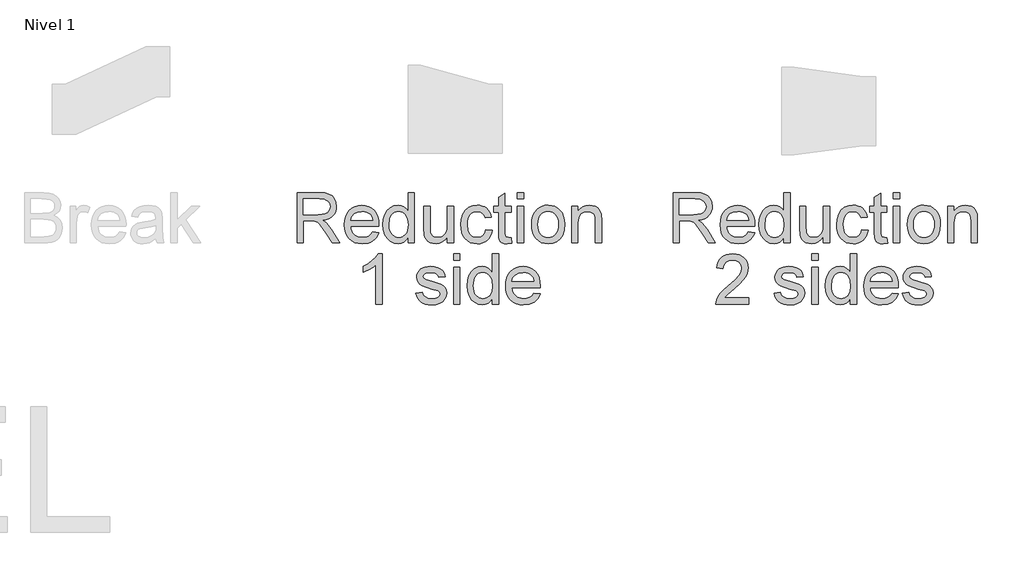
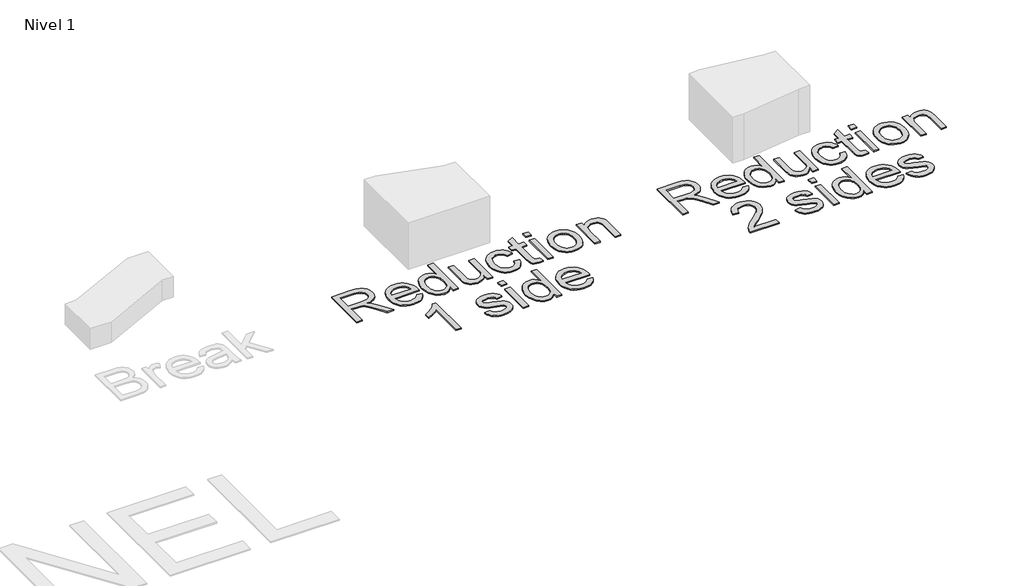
# One storey, part 6 of 7: 2 proxies.
"""IFC4 building model written with IfcOpenShell, lengths in millimetres."""

from ifc_helpers import new_model, si_unit, origin, origin_with_axes, place, context, project, spatial, polyline, outline, extrude, element, save

model = new_model("IFC4")

# Units and contexts
model_context = context("Model", 3, world=origin())
ifc_project = project(units=[si_unit("LENGTHUNIT", "METRE", prefix="MILLI")], contexts=[model_context])

# Site, building, storey
site = spatial("IfcSite", under=ifc_project)
building = spatial("IfcBuilding", under=site)
storey = spatial("IfcBuildingStorey", under=building, Name="Nivel 1", Elevation=0.0)

# Proxies
placement = place(None, origin())
element("IfcBuildingElementProxy", 1, Name="Texto de modelo 1", ObjectType="Texto de modelo 1", at=placement, inside=storey, context=model_context, shape_type="SweptSolid", body=[
    extrude(outline(polyline([(4236.6216122, -4316.3248037), (4236.6216122, -3914.4995631), (4409.7714046, -3914.4995631), (4456.308477, -3917.2096271), (4490.1658833, -3925.3398192), (4514.9120788, -3940.3494046), (4534.115519, -3963.6976486), (4546.4395658, -3992.6499616), (4550.5475814, -4024.4717542), (4548.8461272, -4045.1099341), (4543.7417645, -4064.0558569), (4535.2344934, -4081.3095224), (4523.3243138, -4096.8709308), (4507.8579416, -4110.2434414), (4488.6820926, -4120.9304133), (4465.7967668, -4128.9318467), (4439.2019642, -4134.2477415), (4467.749607, -4155.7320501), (4508.4618812, -4207.4317331), (4575.4654552, -4316.3248037), (4517.0948453, -4316.3248037), (4464.8065511, -4233.03632), (4427.0373329, -4177.9030716), (4412.9965034, -4161.8266285), (4400.5007783, -4151.8570264), (4376.6129741, -4142.2920945), (4347.4767201, -4140.5262609), (4286.8497673, -4140.5262609), (4286.8497673, -4316.3248037), (4236.6216122, -4316.3248037)]), holes=[polyline([(4286.8497673, -4090.2981059), (4399.274505, -4090.2981059), (4431.5622814, -4088.5200095), (4456.6150453, -4083.1857206), (4475.4751289, -4073.9396198), (4489.1848646, -4060.4260878), (4497.5357859, -4044.0798645), (4500.3194263, -4026.3356896), (4495.0096629, -4001.8347488), (4479.0803725, -3982.0917483), (4466.9188069, -3974.4949851), (4451.6731638, -3969.0687257), (4411.9296456, -3964.7277182), (4286.8497673, -3964.7277182), (4286.8497673, -4090.2981059)])]), origin_with_axes(), (0.0, 0.0, 1.0), 10.0),
    extrude(outline(polyline([(4838.7708619, -4228.4255323), (4888.0179983, -4234.7040517), (4880.4672204, -4254.428658), (4870.2738234, -4271.8110823), (4857.4378075, -4286.8513245), (4841.9591725, -4299.5493847), (4823.9973341, -4309.6354827), (4803.7117078, -4316.8398385), (4756.1690912, -4322.6033231), (4725.0033549, -4320.1170539), (4697.2343956, -4312.6582465), (4672.8622134, -4300.2269007), (4651.8868083, -4282.8230167), (4635.0194189, -4260.9309723), (4622.9712835, -4235.0351455), (4615.7424023, -4205.1355363), (4613.3327753, -4171.2321448), (4615.7669278, -4136.179122), (4623.0693854, -4105.2831658), (4635.2401481, -4078.5442761), (4652.2792158, -4055.962453), (4673.1994386, -4038.0220743), (4697.0136664, -4025.2075182), (4723.7218993, -4017.5187845), (4753.3241371, -4014.9558732), (4781.9729475, -4017.5126531), (4807.881037, -4025.1829927), (4831.0484057, -4037.966892), (4851.4750535, -4055.8643511), (4868.1493049, -4078.3971233), (4880.0594845, -4105.0869621), (4887.2055922, -4135.9338674), (4889.5876282, -4170.9378392), (4889.2933226, -4184.4758966), (4663.5609303, -4184.4758966), (4666.4702638, -4204.519334), (4672.2552081, -4222.0734365), (4680.9157634, -4237.1382042), (4692.4519297, -4249.7136371), (4706.2260447, -4259.6280569), (4721.6004464, -4266.7097853), (4757.1501099, -4272.375168), (4783.8828682, -4269.7509431), (4806.3972463, -4261.8782684), (4824.6932442, -4248.2666346), (4838.7708619, -4228.4255323)]), holes=[polyline([(4663.5609303, -4134.2477415), (4839.3594731, -4134.2477415), (4832.5659189, -4107.711187), (4819.2485907, -4088.728476), (4805.5511177, -4078.4277801), (4789.9651839, -4071.0701402), (4772.4907891, -4066.6555563), (4753.1279334, -4065.1840283), (4719.2705271, -4069.8806551), (4691.2747073, -4083.9705355), (4671.8137498, -4105.9330907), (4663.5609303, -4134.2477415)])]), origin_with_axes(), (0.0, 0.0, 1.0), 10.0),
    extrude(outline(polyline([(5121.8928454, -4316.3248037), (5121.8928454, -4268.9416027), (5106.8648659, -4292.4186054), (5088.6608385, -4309.187893), (5067.2807632, -4319.2494656), (5042.72464, -4322.6033231), (5010.2529226, -4317.7472807), (4980.5280574, -4303.1791537), (4955.3649289, -4279.9167489), (4936.5784217, -4248.9778731), (4924.8797742, -4211.6133251), (4920.9802251, -4169.0739038), (4924.5732059, -4127.0617799), (4935.3521484, -4089.1208835), (4953.3047897, -4057.4094555), (4978.4188673, -4034.085737), (5008.7936573, -4019.7383392), (5042.5284363, -4014.9558732), (5067.1029536, -4018.3771758), (5088.8325168, -4028.6410835), (5107.251142, -4044.3741701), (5121.8928454, -4064.2030097), (5121.8928454, -3914.4995631), (5172.1210005, -3914.4995631), (5172.1210005, -4316.3248037), (5121.8928454, -4316.3248037)]), holes=[polyline([(4971.2083802, -4168.8777), (4972.6247258, -4193.2345538), (4976.8737629, -4214.3111264), (4983.9554913, -4232.1074179), (4993.8699111, -4246.6234283), (5018.5670557, -4265.9372331), (5032.4423383, -4270.7656843), (5047.3354277, -4272.375168), (5062.2990278, -4270.8392607), (5076.091537, -4266.2315387), (5100.1632822, -4247.8006507), (5109.6699661, -4233.8916456), (5116.4604546, -4216.7391476), (5121.8928454, -4172.7036728), (5116.3623527, -4124.5601823), (5109.4492369, -4106.0250612), (5099.7708747, -4091.1810226), (5088.0691616, -4079.8073376), (5075.0859929, -4071.6832769), (5060.8213685, -4066.8088405), (5045.2752885, -4065.1840283), (5030.0878935, -4066.7444611), (5016.2126109, -4071.4257595), (5003.6494408, -4079.2279235), (4992.3983831, -4090.1509531), (4983.1277568, -4104.4339715), (4976.5058809, -4122.3161022), (4971.2083802, -4168.8777)])]), origin_with_axes(), (0.0, 0.0, 1.0), 10.0),
    extrude(outline(polyline([(5435.8188146, -4316.3248037), (5435.8188146, -4265.6061393), (5417.645444, -4290.5424072), (5396.4799666, -4308.3540271), (5372.3223822, -4319.0409991), (5345.172691, -4322.6033231), (5320.7085383, -4320.1017255), (5297.9366428, -4312.5969328), (5278.8313045, -4301.3152183), (5265.3668235, -4287.4828553), (5256.3046637, -4270.6829108), (5250.406289, -4250.498452), (5247.4632331, -4203.8019641), (5247.4632331, -4021.2343926), (5297.6913881, -4021.2343926), (5297.6913881, -4180.1594145), (5300.732546, -4231.3685883), (5308.0533977, -4248.4505756), (5320.5981737, -4261.43681), (5337.5330082, -4269.6405785), (5358.0240354, -4272.375168), (5379.6922849, -4269.5792648), (5399.9625828, -4261.1915554), (5416.6766881, -4247.9845917), (5427.6763598, -4230.7309262), (5433.7832009, -4207.1006393), (5435.8188146, -4174.763812), (5435.8188146, -4021.2343926), (5486.0469697, -4021.2343926), (5486.0469697, -4316.3248037), (5435.8188146, -4316.3248037)])), origin_with_axes(), (0.0, 0.0, 1.0), 10.0),
    extrude(outline(polyline([(5743.4662644, -4209.5899742), (5793.6944195, -4215.8684935), (5788.2313719, -4239.5692911), (5779.6903782, -4260.5416305), (5768.0714385, -4278.7855118), (5753.3745528, -4294.3009349), (5736.2189891, -4306.6832297), (5717.2240154, -4315.527726), (5696.3896318, -4320.8344238), (5673.7158381, -4322.6033231), (5645.5452744, -4320.135448), (5620.2871097, -4312.7318229), (5597.9413442, -4300.3924476), (5578.5079778, -4283.1173223), (5562.7779568, -4261.2314092), (5551.5422276, -4235.059671), (5544.80079, -4204.6021074), (5542.5536441, -4169.8587187), (5546.3918796, -4125.1610563), (5557.9065861, -4086.4230822), (5577.2817045, -4055.1408499), (5604.7011759, -4032.8104127), (5637.5039871, -4019.4195081), (5673.0291251, -4014.9558732), (5695.3135769, -4016.4887149), (5715.4704446, -4021.0872398), (5733.499728, -4028.7514481), (5749.4014273, -4039.4813396), (5762.9057622, -4053.0316597), (5773.7429526, -4069.1571539), (5781.9129986, -4087.857822), (5787.4159001, -4109.133664), (5737.1877451, -4115.4121834), (5728.0765343, -4093.4986792), (5713.888552, -4077.790118), (5695.4086131, -4068.3355507), (5673.4215326, -4065.1840283), (5656.3548737, -4066.7352641), (5640.9620778, -4071.3889713), (5627.2431451, -4079.14515), (5615.1980754, -4090.0038003), (5605.3909546, -4104.216308), (5598.3858683, -4122.0340593), (5594.1828165, -4143.4570542), (5592.7817992, -4168.4852926), (5598.2632409, -4215.5619252), (5605.1150431, -4233.4992382), (5614.7075661, -4247.7025489), (5626.5135125, -4258.4968197), (5640.0055847, -4266.2070132), (5655.1837826, -4270.8331293), (5672.0481064, -4272.375168), (5698.0573635, -4268.5246698), (5719.3822565, -4256.9731751), (5734.8946139, -4237.4263785), (5743.4662644, -4209.5899742)])), origin_with_axes(), (0.0, 0.0, 1.0), 10.0),
    extrude(outline(polyline([(5944.3788847, -4274.4353072), (5950.6574041, -4317.7963317), (5913.0843897, -4322.6033231), (5888.9758563, -4320.5186584), (5870.9986894, -4314.2646645), (5858.2944979, -4304.6261562), (5850.0048902, -4292.3879485), (5845.4431535, -4271.3696239), (5843.9225746, -4235.3907648), (5843.9225746, -4071.4625477), (5806.2514583, -4071.4625477), (5806.2514583, -4021.2343926), (5843.9225746, -4021.2343926), (5843.9225746, -3949.521929), (5894.1507297, -3919.9932676), (5894.1507297, -4021.2343926), (5944.3788847, -4021.2343926), (5944.3788847, -4071.4625477), (5894.1507297, -4071.4625477), (5894.1507297, -4233.9192368), (5896.79948, -4259.8181292), (5905.3833932, -4268.9906536), (5922.5021688, -4272.375168), (5944.3788847, -4274.4353072)])), origin_with_axes(), (0.0, 0.0, 1.0), 10.0),
    extrude(outline(polyline([(5994.6070398, -3964.7277182), (5994.6070398, -3914.4995631), (6044.8351949, -3914.4995631), (6044.8351949, -3964.7277182), (5994.6070398, -3964.7277182)])), origin_with_axes(), (0.0, 0.0, 1.0), 10.0),
    extrude(outline(polyline([(5994.6070398, -4316.3248037), (5994.6070398, -4021.2343926), (6044.8351949, -4021.2343926), (6044.8351949, -4316.3248037), (5994.6070398, -4316.3248037)])), origin_with_axes(), (0.0, 0.0, 1.0), 10.0),
    extrude(outline(polyline([(6107.6203887, -4168.7795982), (6110.3365841, -4130.5627902), (6118.4851703, -4097.6312203), (6132.0661473, -4069.9848884), (6151.0795151, -4047.6237944), (6170.2216416, -4033.3315789), (6191.3503308, -4023.1228535), (6214.4655829, -4016.9976183), (6239.5673977, -4014.9558732), (6267.278109, -4017.4421424), (6292.3339385, -4024.9009498), (6314.7348863, -4037.3322956), (6334.4809524, -4054.7361797), (6350.5972495, -4076.5239908), (6362.1088903, -4102.1071179), (6369.0158747, -4131.4855609), (6371.3182029, -4164.6593198), (6367.2469755, -4215.4025097), (6355.0332932, -4254.0301192), (6335.0327754, -4282.9579067), (6307.6010413, -4304.6016308), (6275.0189593, -4318.1029), (6239.5673977, -4322.6033231), (6211.4520162, -4320.126251), (6186.1631947, -4312.6950347), (6163.7009332, -4300.3096742), (6144.0652317, -4282.9701695), (6128.1206129, -4260.9708262), (6116.7315995, -4234.6059498), (6109.8981914, -4203.8755405), (6107.6203887, -4168.7795982)]), holes=[polyline([(6157.8485438, -4168.6814963), (6159.3016777, -4193.0444814), (6163.6610793, -4214.1394482), (6170.9267487, -4231.9663965), (6181.0986859, -4246.5253265), (6193.4717837, -4257.8346321), (6207.3409349, -4265.9127076), (6222.7061396, -4270.7595529), (6239.5673977, -4272.375168), (6256.3428166, -4270.7503559), (6271.6467076, -4265.8759194), (6285.4790707, -4257.7518587), (6297.8399057, -4246.3781737), (6308.0118429, -4231.6751566), (6315.2775123, -4213.5630997), (6319.6369139, -4192.042003), (6321.0900478, -4167.1118665), (6319.6277169, -4143.5214335), (6315.2407241, -4122.9782898), (6307.9290694, -4105.4824352), (6297.6927529, -4091.0338698), (6285.2859326, -4079.7245642), (6271.4627666, -4071.6464887), (6256.223255, -4066.7996434), (6239.5673977, -4065.1840283), (6222.7061396, -4066.793512), (6207.3409349, -4071.6219632), (6193.4717837, -4079.6693819), (6181.0986859, -4090.935768), (6170.9267487, -4105.4517784), (6163.6610793, -4123.2480699), (6159.3016777, -4144.3246425), (6157.8485438, -4168.6814963)])]), origin_with_axes(), (0.0, 0.0, 1.0), 10.0),
    extrude(outline(polyline([(6427.8248773, -4316.3248037), (6427.8248773, -4021.2343926), (6478.0530324, -4021.2343926), (6478.0530324, -4062.4371761), (6495.5029017, -4041.6641061), (6516.4599127, -4026.826199), (6540.9240654, -4017.9234547), (6568.8953597, -4014.9558732), (6593.653818, -4017.3471062), (6616.3276117, -4024.5208051), (6635.2367462, -4035.5817904), (6648.7012272, -4049.6348827), (6657.8369634, -4066.6432936), (6663.7598636, -4086.570235), (6666.4086139, -4135.1306583), (6666.4086139, -4316.3248037), (6616.1804589, -4316.3248037), (6616.1804589, -4141.899687), (6614.7334563, -4115.9272182), (6610.3924488, -4097.459542), (6602.384884, -4084.2280529), (6589.9382099, -4073.9641453), (6573.984394, -4067.3790576), (6555.4554042, -4065.1840283), (6526.0371073, -4070.1136471), (6500.959818, -4084.9025033), (6490.9380993, -4096.9751641), (6483.7797288, -4113.4746716), (6479.4847065, -4134.4010257), (6478.0530324, -4159.7542265), (6478.0530324, -4316.3248037), (6427.8248773, -4316.3248037)])), origin_with_axes(), (0.0, 0.0, 1.0), 10.0),
    extrude(outline(polyline([(4914.7017057, -4804.2240751), (4864.4735506, -4804.2240751), (4864.4735506, -4491.0829208), (4843.5042769, -4508.0422808), (4816.8941459, -4524.9771153), (4764.0172405, -4550.3364475), (4764.0172405, -4502.8551446), (4803.4664531, -4481.3953616), (4837.6426904, -4455.8643511), (4864.5839152, -4428.7146599), (4882.3280901, -4402.3988345), (4914.7017057, -4402.3988345), (4914.7017057, -4804.2240751)])), origin_with_axes(), (0.0, 0.0, 1.0), 10.0),
    extrude(outline(polyline([(5184.6780392, -4716.3248037), (5234.9061943, -4710.0462843), (5242.8279199, -4731.5305928), (5258.1563364, -4747.3249932), (5280.9895456, -4757.0370778), (5311.4256493, -4760.2744394), (5341.493871, -4757.306858), (5362.634823, -4748.4041137), (5375.1428109, -4735.5037184), (5379.3121401, -4720.5431839), (5375.1182854, -4707.7408905), (5362.5367212, -4697.9797549), (5310.8370381, -4683.6568825), (5235.2004999, -4659.0823652), (5216.0583734, -4646.7337929), (5202.1892222, -4630.3875696), (5193.7647245, -4611.0860276), (5190.9565586, -4589.8714992), (5193.2129015, -4570.4105417), (5199.9819302, -4552.4456376), (5210.6505081, -4536.6880254), (5224.6054984, -4523.8489438), (5256.5376556, -4508.9865112), (5277.4210902, -4504.3879863), (5299.7515273, -4502.8551446), (5332.443974, -4505.319954), (5360.8689895, -4512.7143821), (5383.7267241, -4524.3149277), (5399.7173281, -4539.3980895), (5410.3123296, -4559.0797762), (5416.9832564, -4584.4758966), (5366.7551014, -4590.754416), (5360.4152683, -4574.9477529), (5347.8704923, -4563.040639), (5328.9981459, -4555.5726345), (5303.6756019, -4553.0832997), (5274.8336535, -4555.4622699), (5255.6056879, -4562.5991806), (5244.7899572, -4572.8998765), (5241.1847137, -4584.7702022), (5247.1689275, -4599.3873802), (5265.9063838, -4610.4728909), (5309.1693064, -4621.1659943), (5382.8928582, -4644.8085438), (5402.3660785, -4656.1147838), (5417.1304092, -4671.5903531), (5426.4378237, -4691.2843026), (5429.5402952, -4715.2456832), (5425.8982635, -4740.0164042), (5414.9721682, -4763.3155972), (5397.1789424, -4783.316115), (5372.9355189, -4798.1908104), (5343.6521121, -4807.4246484), (5310.7389362, -4810.5025945), (5283.705741, -4809.0188037), (5260.0938482, -4804.5674316), (5239.9032581, -4797.148478), (5223.1339705, -4786.761943), (5209.4364975, -4773.4568775), (5198.4613513, -4757.2823325), (5190.2085319, -4738.2383079), (5184.6780392, -4716.3248037)])), origin_with_axes(), (0.0, 0.0, 1.0), 10.0),
    extrude(outline(polyline([(5486.0469697, -4452.6269896), (5486.0469697, -4402.3988345), (5536.2751248, -4402.3988345), (5536.2751248, -4452.6269896), (5486.0469697, -4452.6269896)])), origin_with_axes(), (0.0, 0.0, 1.0), 10.0),
    extrude(outline(polyline([(5486.0469697, -4804.2240751), (5486.0469697, -4509.133664), (5536.2751248, -4509.133664), (5536.2751248, -4804.2240751), (5486.0469697, -4804.2240751)])), origin_with_axes(), (0.0, 0.0, 1.0), 10.0),
    extrude(outline(polyline([(5793.6944195, -4804.2240751), (5793.6944195, -4756.8408741), (5778.66644, -4780.3178768), (5760.4624126, -4797.0871644), (5739.0823373, -4807.1487369), (5714.5262141, -4810.5025945), (5682.0544967, -4805.6465521), (5652.3296315, -4791.0784251), (5627.166503, -4767.8160203), (5608.3799958, -4736.8771445), (5596.6813484, -4699.5125965), (5592.7817992, -4656.9731751), (5596.37478, -4614.9610513), (5607.1537225, -4577.0201549), (5625.1063639, -4545.3087269), (5650.2204414, -4521.9850084), (5680.5952315, -4507.6376106), (5714.3300104, -4502.8551446), (5738.9045277, -4506.2764472), (5760.6340909, -4516.5403548), (5779.0527161, -4532.2734415), (5793.6944195, -4552.102281), (5793.6944195, -4402.3988345), (5843.9225746, -4402.3988345), (5843.9225746, -4804.2240751), (5793.6944195, -4804.2240751)]), holes=[polyline([(5643.0099543, -4656.7769714), (5644.4263, -4681.1338252), (5648.675337, -4702.2103978), (5655.7570654, -4720.0066893), (5665.6714852, -4734.5226997), (5690.3686298, -4753.8365045), (5704.2439124, -4758.6649557), (5719.1370018, -4760.2744394), (5734.100602, -4758.7385321), (5747.8931111, -4754.1308101), (5771.9648563, -4735.6999221), (5781.4715402, -4721.790917), (5788.2620287, -4704.638419), (5793.6944195, -4660.6029442), (5788.1639268, -4612.4594537), (5781.250811, -4593.9243325), (5771.5724489, -4579.080294), (5759.8707357, -4567.706609), (5746.887567, -4559.5825483), (5732.6229426, -4554.7081118), (5717.0768626, -4553.0832997), (5701.8894676, -4554.6437325), (5688.014185, -4559.3250309), (5675.4510149, -4567.1271949), (5664.1999572, -4578.0502244), (5654.9293309, -4592.3332429), (5648.307455, -4610.2153736), (5643.0099543, -4656.7769714)])]), origin_with_axes(), (0.0, 0.0, 1.0), 10.0),
    extrude(outline(polyline([(6125.8673357, -4716.3248037), (6175.1144721, -4722.6033231), (6167.5636942, -4742.3279294), (6157.3702972, -4759.7103537), (6144.5342813, -4774.7505959), (6129.0556463, -4787.4486561), (6111.0938079, -4797.5347541), (6090.8081815, -4804.7391099), (6043.265565, -4810.5025945), (6012.0998287, -4808.0163253), (5984.3308694, -4800.5575179), (5959.9586872, -4788.1261721), (5938.9832821, -4770.722288), (5922.1158927, -4748.8302437), (5910.0677573, -4722.9344169), (5902.8388761, -4693.0348077), (5900.429249, -4659.1314162), (5902.8634016, -4624.0783934), (5910.1658592, -4593.1824372), (5922.3366219, -4566.4435475), (5939.3756896, -4543.8617244), (5960.2959124, -4525.9213457), (5984.1101402, -4513.1067896), (6010.8183731, -4505.4180559), (6040.4206109, -4502.8551446), (6069.0694213, -4505.4119245), (6094.9775108, -4513.0822641), (6118.1448795, -4525.8661634), (6138.5715273, -4543.7636225), (6155.2457787, -4566.2963947), (6167.1559583, -4592.9862334), (6174.302066, -4623.8331387), (6176.684102, -4658.8371106), (6176.3897964, -4672.375168), (5950.6574041, -4672.375168), (5953.5667376, -4692.4186054), (5959.3516819, -4709.9727079), (5968.0122372, -4725.0374756), (5979.5484035, -4737.6129085), (5993.3225185, -4747.5273283), (6008.6969202, -4754.6090567), (6044.2465837, -4760.2744394), (6070.979342, -4757.6502145), (6093.4937201, -4749.7775398), (6111.789718, -4736.165906), (6125.8673357, -4716.3248037)]), holes=[polyline([(5950.6574041, -4622.1470129), (6126.4559469, -4622.1470129), (6119.6623927, -4595.6104583), (6106.3450645, -4576.6277474), (6092.6475915, -4566.3270515), (6077.0616577, -4558.9694116), (6059.5872629, -4554.5548277), (6040.2244072, -4553.0832997), (6006.3670009, -4557.7799265), (5978.3711811, -4571.8698069), (5958.9102235, -4593.832362), (5950.6574041, -4622.1470129)])]), origin_with_axes(), (0.0, 0.0, 1.0), 10.0),
])
element("IfcBuildingElementProxy", 2, Name="Texto de modelo 1", ObjectType="Texto de modelo 1", at=placement, inside=storey, context=model_context, shape_type="SweptSolid", body=[
    extrude(outline(polyline([(7236.6216122, -4316.3248037), (7236.6216122, -3914.4995631), (7409.7714046, -3914.4995631), (7456.308477, -3917.2096271), (7490.1658833, -3925.3398192), (7514.9120788, -3940.3494046), (7534.115519, -3963.6976486), (7546.4395658, -3992.6499616), (7550.5475814, -4024.4717542), (7548.8461272, -4045.1099341), (7543.7417645, -4064.0558569), (7535.2344934, -4081.3095224), (7523.3243138, -4096.8709308), (7507.8579416, -4110.2434414), (7488.6820926, -4120.9304133), (7465.7967668, -4128.9318467), (7439.2019642, -4134.2477415), (7467.749607, -4155.7320501), (7508.4618812, -4207.4317331), (7575.4654552, -4316.3248037), (7517.0948453, -4316.3248037), (7464.8065511, -4233.03632), (7427.0373329, -4177.9030716), (7412.9965034, -4161.8266285), (7400.5007783, -4151.8570264), (7376.6129741, -4142.2920945), (7347.4767201, -4140.5262609), (7286.8497673, -4140.5262609), (7286.8497673, -4316.3248037), (7236.6216122, -4316.3248037)]), holes=[polyline([(7286.8497673, -4090.2981059), (7399.274505, -4090.2981059), (7431.5622814, -4088.5200095), (7456.6150453, -4083.1857206), (7475.4751289, -4073.9396198), (7489.1848646, -4060.4260878), (7497.5357859, -4044.0798645), (7500.3194263, -4026.3356896), (7495.0096629, -4001.8347488), (7479.0803725, -3982.0917483), (7466.9188069, -3974.4949851), (7451.6731638, -3969.0687257), (7411.9296456, -3964.7277182), (7286.8497673, -3964.7277182), (7286.8497673, -4090.2981059)])]), origin_with_axes(), (0.0, 0.0, 1.0), 10.0),
    extrude(outline(polyline([(7838.7708619, -4228.4255323), (7888.0179983, -4234.7040517), (7880.4672204, -4254.428658), (7870.2738234, -4271.8110823), (7857.4378075, -4286.8513245), (7841.9591725, -4299.5493847), (7823.9973341, -4309.6354827), (7803.7117078, -4316.8398385), (7756.1690912, -4322.6033231), (7725.0033549, -4320.1170539), (7697.2343956, -4312.6582465), (7672.8622134, -4300.2269007), (7651.8868083, -4282.8230167), (7635.0194189, -4260.9309723), (7622.9712835, -4235.0351455), (7615.7424023, -4205.1355363), (7613.3327753, -4171.2321448), (7615.7669278, -4136.179122), (7623.0693854, -4105.2831658), (7635.2401481, -4078.5442761), (7652.2792158, -4055.962453), (7673.1994386, -4038.0220743), (7697.0136664, -4025.2075182), (7723.7218993, -4017.5187845), (7753.3241371, -4014.9558732), (7781.9729475, -4017.5126531), (7807.881037, -4025.1829927), (7831.0484057, -4037.966892), (7851.4750535, -4055.8643511), (7868.1493049, -4078.3971233), (7880.0594845, -4105.0869621), (7887.2055922, -4135.9338674), (7889.5876282, -4170.9378392), (7889.2933226, -4184.4758966), (7663.5609303, -4184.4758966), (7666.4702638, -4204.519334), (7672.2552081, -4222.0734365), (7680.9157634, -4237.1382042), (7692.4519297, -4249.7136371), (7706.2260447, -4259.6280569), (7721.6004464, -4266.7097853), (7757.1501099, -4272.375168), (7783.8828682, -4269.7509431), (7806.3972463, -4261.8782684), (7824.6932442, -4248.2666346), (7838.7708619, -4228.4255323)]), holes=[polyline([(7663.5609303, -4134.2477415), (7839.3594731, -4134.2477415), (7832.5659189, -4107.711187), (7819.2485907, -4088.728476), (7805.5511177, -4078.4277801), (7789.9651839, -4071.0701402), (7772.4907891, -4066.6555563), (7753.1279334, -4065.1840283), (7719.2705271, -4069.8806551), (7691.2747073, -4083.9705355), (7671.8137498, -4105.9330907), (7663.5609303, -4134.2477415)])]), origin_with_axes(), (0.0, 0.0, 1.0), 10.0),
    extrude(outline(polyline([(8121.8928454, -4316.3248037), (8121.8928454, -4268.9416027), (8106.8648659, -4292.4186054), (8088.6608385, -4309.187893), (8067.2807632, -4319.2494656), (8042.72464, -4322.6033231), (8010.2529226, -4317.7472807), (7980.5280574, -4303.1791537), (7955.3649289, -4279.9167489), (7936.5784217, -4248.9778731), (7924.8797742, -4211.6133251), (7920.9802251, -4169.0739038), (7924.5732059, -4127.0617799), (7935.3521484, -4089.1208835), (7953.3047897, -4057.4094555), (7978.4188673, -4034.085737), (8008.7936573, -4019.7383392), (8042.5284363, -4014.9558732), (8067.1029536, -4018.3771758), (8088.8325168, -4028.6410835), (8107.251142, -4044.3741701), (8121.8928454, -4064.2030097), (8121.8928454, -3914.4995631), (8172.1210005, -3914.4995631), (8172.1210005, -4316.3248037), (8121.8928454, -4316.3248037)]), holes=[polyline([(7971.2083802, -4168.8777), (7972.6247258, -4193.2345538), (7976.8737629, -4214.3111264), (7983.9554913, -4232.1074179), (7993.8699111, -4246.6234283), (8018.5670557, -4265.9372331), (8032.4423383, -4270.7656843), (8047.3354277, -4272.375168), (8062.2990278, -4270.8392607), (8076.091537, -4266.2315387), (8100.1632822, -4247.8006507), (8109.6699661, -4233.8916456), (8116.4604546, -4216.7391476), (8121.8928454, -4172.7036728), (8116.3623527, -4124.5601823), (8109.4492369, -4106.0250612), (8099.7708747, -4091.1810226), (8088.0691616, -4079.8073376), (8075.0859929, -4071.6832769), (8060.8213685, -4066.8088405), (8045.2752885, -4065.1840283), (8030.0878935, -4066.7444611), (8016.2126109, -4071.4257595), (8003.6494408, -4079.2279235), (7992.3983831, -4090.1509531), (7983.1277568, -4104.4339715), (7976.5058809, -4122.3161022), (7971.2083802, -4168.8777)])]), origin_with_axes(), (0.0, 0.0, 1.0), 10.0),
    extrude(outline(polyline([(8435.8188146, -4316.3248037), (8435.8188146, -4265.6061393), (8417.645444, -4290.5424072), (8396.4799666, -4308.3540271), (8372.3223822, -4319.0409991), (8345.172691, -4322.6033231), (8320.7085383, -4320.1017255), (8297.9366428, -4312.5969328), (8278.8313045, -4301.3152183), (8265.3668235, -4287.4828553), (8256.3046637, -4270.6829108), (8250.406289, -4250.498452), (8247.4632331, -4203.8019641), (8247.4632331, -4021.2343926), (8297.6913881, -4021.2343926), (8297.6913881, -4180.1594145), (8300.732546, -4231.3685883), (8308.0533977, -4248.4505756), (8320.5981737, -4261.43681), (8337.5330082, -4269.6405785), (8358.0240354, -4272.375168), (8379.6922849, -4269.5792648), (8399.9625828, -4261.1915554), (8416.6766881, -4247.9845917), (8427.6763598, -4230.7309262), (8433.7832009, -4207.1006393), (8435.8188146, -4174.763812), (8435.8188146, -4021.2343926), (8486.0469697, -4021.2343926), (8486.0469697, -4316.3248037), (8435.8188146, -4316.3248037)])), origin_with_axes(), (0.0, 0.0, 1.0), 10.0),
    extrude(outline(polyline([(8743.4662644, -4209.5899742), (8793.6944195, -4215.8684935), (8788.2313719, -4239.5692911), (8779.6903782, -4260.5416305), (8768.0714385, -4278.7855118), (8753.3745528, -4294.3009349), (8736.2189891, -4306.6832297), (8717.2240154, -4315.527726), (8696.3896318, -4320.8344238), (8673.7158381, -4322.6033231), (8645.5452744, -4320.135448), (8620.2871097, -4312.7318229), (8597.9413442, -4300.3924476), (8578.5079778, -4283.1173223), (8562.7779568, -4261.2314092), (8551.5422276, -4235.059671), (8544.80079, -4204.6021074), (8542.5536441, -4169.8587187), (8546.3918796, -4125.1610563), (8557.9065861, -4086.4230822), (8577.2817045, -4055.1408499), (8604.7011759, -4032.8104127), (8637.5039871, -4019.4195081), (8673.0291251, -4014.9558732), (8695.3135769, -4016.4887149), (8715.4704446, -4021.0872398), (8733.499728, -4028.7514481), (8749.4014273, -4039.4813396), (8762.9057622, -4053.0316597), (8773.7429526, -4069.1571539), (8781.9129986, -4087.857822), (8787.4159001, -4109.133664), (8737.1877451, -4115.4121834), (8728.0765343, -4093.4986792), (8713.888552, -4077.790118), (8695.4086131, -4068.3355507), (8673.4215326, -4065.1840283), (8656.3548737, -4066.7352641), (8640.9620778, -4071.3889713), (8627.2431451, -4079.14515), (8615.1980754, -4090.0038003), (8605.3909546, -4104.216308), (8598.3858683, -4122.0340593), (8594.1828165, -4143.4570542), (8592.7817992, -4168.4852926), (8598.2632409, -4215.5619252), (8605.1150431, -4233.4992382), (8614.7075661, -4247.7025489), (8626.5135125, -4258.4968197), (8640.0055847, -4266.2070132), (8655.1837826, -4270.8331293), (8672.0481064, -4272.375168), (8698.0573635, -4268.5246698), (8719.3822565, -4256.9731751), (8734.8946139, -4237.4263785), (8743.4662644, -4209.5899742)])), origin_with_axes(), (0.0, 0.0, 1.0), 10.0),
    extrude(outline(polyline([(8944.3788847, -4274.4353072), (8950.6574041, -4317.7963317), (8913.0843897, -4322.6033231), (8888.9758563, -4320.5186584), (8870.9986894, -4314.2646645), (8858.2944979, -4304.6261562), (8850.0048902, -4292.3879485), (8845.4431535, -4271.3696239), (8843.9225746, -4235.3907648), (8843.9225746, -4071.4625477), (8806.2514583, -4071.4625477), (8806.2514583, -4021.2343926), (8843.9225746, -4021.2343926), (8843.9225746, -3949.521929), (8894.1507297, -3919.9932676), (8894.1507297, -4021.2343926), (8944.3788847, -4021.2343926), (8944.3788847, -4071.4625477), (8894.1507297, -4071.4625477), (8894.1507297, -4233.9192368), (8896.79948, -4259.8181292), (8905.3833932, -4268.9906536), (8922.5021688, -4272.375168), (8944.3788847, -4274.4353072)])), origin_with_axes(), (0.0, 0.0, 1.0), 10.0),
    extrude(outline(polyline([(8994.6070398, -3964.7277182), (8994.6070398, -3914.4995631), (9044.8351949, -3914.4995631), (9044.8351949, -3964.7277182), (8994.6070398, -3964.7277182)])), origin_with_axes(), (0.0, 0.0, 1.0), 10.0),
    extrude(outline(polyline([(8994.6070398, -4316.3248037), (8994.6070398, -4021.2343926), (9044.8351949, -4021.2343926), (9044.8351949, -4316.3248037), (8994.6070398, -4316.3248037)])), origin_with_axes(), (0.0, 0.0, 1.0), 10.0),
    extrude(outline(polyline([(9107.6203887, -4168.7795982), (9110.3365841, -4130.5627902), (9118.4851703, -4097.6312203), (9132.0661473, -4069.9848884), (9151.0795151, -4047.6237944), (9170.2216416, -4033.3315789), (9191.3503308, -4023.1228535), (9214.4655829, -4016.9976183), (9239.5673977, -4014.9558732), (9267.278109, -4017.4421424), (9292.3339385, -4024.9009498), (9314.7348863, -4037.3322956), (9334.4809524, -4054.7361797), (9350.5972495, -4076.5239908), (9362.1088903, -4102.1071179), (9369.0158747, -4131.4855609), (9371.3182029, -4164.6593198), (9367.2469755, -4215.4025097), (9355.0332932, -4254.0301192), (9335.0327754, -4282.9579067), (9307.6010413, -4304.6016308), (9275.0189593, -4318.1029), (9239.5673977, -4322.6033231), (9211.4520162, -4320.126251), (9186.1631947, -4312.6950347), (9163.7009332, -4300.3096742), (9144.0652317, -4282.9701695), (9128.1206129, -4260.9708262), (9116.7315995, -4234.6059498), (9109.8981914, -4203.8755405), (9107.6203887, -4168.7795982)]), holes=[polyline([(9157.8485438, -4168.6814963), (9159.3016777, -4193.0444814), (9163.6610793, -4214.1394482), (9170.9267487, -4231.9663965), (9181.0986859, -4246.5253265), (9193.4717837, -4257.8346321), (9207.3409349, -4265.9127076), (9222.7061396, -4270.7595529), (9239.5673977, -4272.375168), (9256.3428166, -4270.7503559), (9271.6467076, -4265.8759194), (9285.4790707, -4257.7518587), (9297.8399057, -4246.3781737), (9308.0118429, -4231.6751566), (9315.2775123, -4213.5630997), (9319.6369139, -4192.042003), (9321.0900478, -4167.1118665), (9319.6277169, -4143.5214335), (9315.2407241, -4122.9782898), (9307.9290694, -4105.4824352), (9297.6927529, -4091.0338698), (9285.2859326, -4079.7245642), (9271.4627666, -4071.6464887), (9256.223255, -4066.7996434), (9239.5673977, -4065.1840283), (9222.7061396, -4066.793512), (9207.3409349, -4071.6219632), (9193.4717837, -4079.6693819), (9181.0986859, -4090.935768), (9170.9267487, -4105.4517784), (9163.6610793, -4123.2480699), (9159.3016777, -4144.3246425), (9157.8485438, -4168.6814963)])]), origin_with_axes(), (0.0, 0.0, 1.0), 10.0),
    extrude(outline(polyline([(9427.8248773, -4316.3248037), (9427.8248773, -4021.2343926), (9478.0530324, -4021.2343926), (9478.0530324, -4062.4371761), (9495.5029017, -4041.6641061), (9516.4599127, -4026.826199), (9540.9240654, -4017.9234547), (9568.8953597, -4014.9558732), (9593.653818, -4017.3471062), (9616.3276117, -4024.5208051), (9635.2367462, -4035.5817904), (9648.7012272, -4049.6348827), (9657.8369634, -4066.6432936), (9663.7598636, -4086.570235), (9666.4086139, -4135.1306583), (9666.4086139, -4316.3248037), (9616.1804589, -4316.3248037), (9616.1804589, -4141.899687), (9614.7334563, -4115.9272182), (9610.3924488, -4097.459542), (9602.384884, -4084.2280529), (9589.9382099, -4073.9641453), (9573.984394, -4067.3790576), (9555.4554042, -4065.1840283), (9526.0371073, -4070.1136471), (9500.959818, -4084.9025033), (9490.9380993, -4096.9751641), (9483.7797288, -4113.4746716), (9479.4847065, -4134.4010257), (9478.0530324, -4159.7542265), (9478.0530324, -4316.3248037), (9427.8248773, -4316.3248037)])), origin_with_axes(), (0.0, 0.0, 1.0), 10.0),
    extrude(outline(polyline([(7842.4987328, -4753.99592), (7842.4987328, -4804.2240751), (7578.8009186, -4804.2240751), (7579.9045646, -4786.5412138), (7584.1965212, -4769.5941166), (7596.5818817, -4742.5302645), (7614.7062014, -4716.2757528), (7640.9239249, -4688.7949677), (7677.5894971, -4658.0522957), (7731.7907777, -4609.9088052), (7764.3115461, -4574.3714045), (7780.5719303, -4545.5294561), (7785.9920583, -4517.4723226), (7780.8784986, -4492.3214568), (7765.5378194, -4471.4134968), (7741.9565835, -4457.3236164), (7712.1213537, -4452.6269896), (7680.7900704, -4457.2132518), (7656.4485451, -4470.9720384), (7640.7399839, -4492.8242289), (7635.3075931, -4521.6907028), (7585.079438, -4515.4121834), (7589.3989858, -4489.4826341), (7597.2563321, -4466.8272346), (7608.6514769, -4447.4459848), (7623.5844202, -4431.3388848), (7641.7118055, -4418.6776128), (7662.6902763, -4409.633847), (7686.5198325, -4404.2075876), (7713.2004742, -4402.3988345), (7740.1202392, -4404.4099227), (7764.0785541, -4410.4431874), (7785.075419, -4420.4986286), (7803.1108338, -4434.5762463), (7817.5961874, -4451.6337082), (7827.9428685, -4470.6286818), (7834.1508772, -4491.5611674), (7836.2202134, -4514.4311647), (7833.988396, -4538.453859), (7827.2929436, -4562.0596204), (7815.4103552, -4586.0700519), (7797.6171294, -4611.3067568), (7769.2534275, -4641.4362922), (7725.6594111, -4680.1252154), (7667.8774124, -4728.4403841), (7645.2158815, -4753.99592), (7842.4987328, -4753.99592)])), origin_with_axes(), (0.0, 0.0, 1.0), 10.0),
    extrude(outline(polyline([(8043.4113531, -4716.3248037), (8093.6395082, -4710.0462843), (8101.5612338, -4731.5305928), (8116.8896502, -4747.3249932), (8139.7228594, -4757.0370778), (8170.1589632, -4760.2744394), (8200.2271849, -4757.306858), (8221.3681369, -4748.4041137), (8233.8761247, -4735.5037184), (8238.045454, -4720.5431839), (8233.8515992, -4707.7408905), (8221.270035, -4697.9797549), (8169.570352, -4683.6568825), (8093.9338138, -4659.0823652), (8074.7916873, -4646.7337929), (8060.922536, -4630.3875696), (8052.4980384, -4611.0860276), (8049.6898725, -4589.8714992), (8051.9462154, -4570.4105417), (8058.7152441, -4552.4456376), (8069.3838219, -4536.6880254), (8083.3388123, -4523.8489438), (8115.2709695, -4508.9865112), (8136.1544041, -4504.3879863), (8158.4848412, -4502.8551446), (8191.1772878, -4505.319954), (8219.6023033, -4512.7143821), (8242.4600379, -4524.3149277), (8258.450642, -4539.3980895), (8269.0456435, -4559.0797762), (8275.7165703, -4584.4758966), (8225.4884152, -4590.754416), (8219.1485822, -4574.9477529), (8206.6038061, -4563.040639), (8187.7314598, -4555.5726345), (8162.4089158, -4553.0832997), (8133.5669674, -4555.4622699), (8114.3390017, -4562.5991806), (8103.5232711, -4572.8998765), (8099.9180275, -4584.7702022), (8105.9022413, -4599.3873802), (8124.6396976, -4610.4728909), (8167.9026202, -4621.1659943), (8241.6261721, -4644.8085438), (8261.0993924, -4656.1147838), (8275.8637231, -4671.5903531), (8285.1711376, -4691.2843026), (8288.2736091, -4715.2456832), (8284.6315773, -4740.0164042), (8273.7054821, -4763.3155972), (8255.9122562, -4783.316115), (8231.6688327, -4798.1908104), (8202.3854259, -4807.4246484), (8169.4722501, -4810.5025945), (8142.4390548, -4809.0188037), (8118.8271621, -4804.5674316), (8098.6365719, -4797.148478), (8081.8672843, -4786.761943), (8068.1698114, -4773.4568775), (8057.1946652, -4757.2823325), (8048.9418457, -4738.2383079), (8043.4113531, -4716.3248037)])), origin_with_axes(), (0.0, 0.0, 1.0), 10.0),
    extrude(outline(polyline([(8344.7802835, -4452.6269896), (8344.7802835, -4402.3988345), (8395.0084386, -4402.3988345), (8395.0084386, -4452.6269896), (8344.7802835, -4452.6269896)])), origin_with_axes(), (0.0, 0.0, 1.0), 10.0),
    extrude(outline(polyline([(8344.7802835, -4804.2240751), (8344.7802835, -4509.133664), (8395.0084386, -4509.133664), (8395.0084386, -4804.2240751), (8344.7802835, -4804.2240751)])), origin_with_axes(), (0.0, 0.0, 1.0), 10.0),
    extrude(outline(polyline([(8652.4277334, -4804.2240751), (8652.4277334, -4756.8408741), (8637.3997539, -4780.3178768), (8619.1957265, -4797.0871644), (8597.8156512, -4807.1487369), (8573.259528, -4810.5025945), (8540.7878106, -4805.6465521), (8511.0629453, -4791.0784251), (8485.8998169, -4767.8160203), (8467.1133097, -4736.8771445), (8455.4146622, -4699.5125965), (8451.5151131, -4656.9731751), (8455.1080939, -4614.9610513), (8465.8870363, -4577.0201549), (8483.8396777, -4545.3087269), (8508.9537552, -4521.9850084), (8539.3285453, -4507.6376106), (8573.0633243, -4502.8551446), (8597.6378415, -4506.2764472), (8619.3674047, -4516.5403548), (8637.78603, -4532.2734415), (8652.4277334, -4552.102281), (8652.4277334, -4402.3988345), (8702.6558884, -4402.3988345), (8702.6558884, -4804.2240751), (8652.4277334, -4804.2240751)]), holes=[polyline([(8501.7432681, -4656.7769714), (8503.1596138, -4681.1338252), (8507.4086509, -4702.2103978), (8514.4903793, -4720.0066893), (8524.404799, -4734.5226997), (8549.1019436, -4753.8365045), (8562.9772262, -4758.6649557), (8577.8703157, -4760.2744394), (8592.8339158, -4758.7385321), (8606.626425, -4754.1308101), (8630.6981702, -4735.6999221), (8640.2048541, -4721.790917), (8646.9953426, -4704.638419), (8652.4277334, -4660.6029442), (8646.8972407, -4612.4594537), (8639.9841249, -4593.9243325), (8630.3057627, -4579.080294), (8618.6040496, -4567.706609), (8605.6208808, -4559.5825483), (8591.3562565, -4554.7081118), (8575.8101765, -4553.0832997), (8560.6227815, -4554.6437325), (8546.7474989, -4559.3250309), (8534.1843287, -4567.1271949), (8522.9332711, -4578.0502244), (8513.6626448, -4592.3332429), (8507.0407689, -4610.2153736), (8501.7432681, -4656.7769714)])]), origin_with_axes(), (0.0, 0.0, 1.0), 10.0),
    extrude(outline(polyline([(8984.6006495, -4716.3248037), (9033.847786, -4722.6033231), (9026.297008, -4742.3279294), (9016.1036111, -4759.7103537), (9003.2675951, -4774.7505959), (8987.7889602, -4787.4486561), (8969.8271218, -4797.5347541), (8949.5414954, -4804.7391099), (8901.9988789, -4810.5025945), (8870.8331425, -4808.0163253), (8843.0641833, -4800.5575179), (8818.6920011, -4788.1261721), (8797.716596, -4770.722288), (8780.8492065, -4748.8302437), (8768.8010712, -4722.9344169), (8761.57219, -4693.0348077), (8759.1625629, -4659.1314162), (8761.5967154, -4624.0783934), (8768.899173, -4593.1824372), (8781.0699357, -4566.4435475), (8798.1090035, -4543.8617244), (8819.0292262, -4525.9213457), (8842.8434541, -4513.1067896), (8869.5516869, -4505.4180559), (8899.1539248, -4502.8551446), (8927.8027352, -4505.4119245), (8953.7108247, -4513.0822641), (8976.8781933, -4525.8661634), (8997.3048411, -4543.7636225), (9013.9790925, -4566.2963947), (9025.8892721, -4592.9862334), (9033.0353799, -4623.8331387), (9035.4174158, -4658.8371106), (9035.1231102, -4672.375168), (8809.390718, -4672.375168), (8812.3000514, -4692.4186054), (8818.0849958, -4709.9727079), (8826.7455511, -4725.0374756), (8838.2817173, -4737.6129085), (8852.0558324, -4747.5273283), (8867.4302341, -4754.6090567), (8902.9798975, -4760.2744394), (8929.7126559, -4757.6502145), (8952.227034, -4749.7775398), (8970.5230319, -4736.165906), (8984.6006495, -4716.3248037)]), holes=[polyline([(8809.390718, -4622.1470129), (8985.1892607, -4622.1470129), (8978.3957066, -4595.6104583), (8965.0783783, -4576.6277474), (8951.3809054, -4566.3270515), (8935.7949715, -4558.9694116), (8918.3205767, -4554.5548277), (8898.9577211, -4553.0832997), (8865.1003148, -4557.7799265), (8837.1044949, -4571.8698069), (8817.6435374, -4593.832362), (8809.390718, -4622.1470129)])]), origin_with_axes(), (0.0, 0.0, 1.0), 10.0),
    extrude(outline(polyline([(9066.8100127, -4716.3248037), (9117.0381678, -4710.0462843), (9124.9598934, -4731.5305928), (9140.2883099, -4747.3249932), (9163.1215191, -4757.0370778), (9193.5576228, -4760.2744394), (9223.6258445, -4757.306858), (9244.7667965, -4748.4041137), (9257.2747844, -4735.5037184), (9261.4441136, -4720.5431839), (9257.2502589, -4707.7408905), (9244.6686947, -4697.9797549), (9192.9690116, -4683.6568825), (9117.3324734, -4659.0823652), (9098.1903469, -4646.7337929), (9084.3211957, -4630.3875696), (9075.896698, -4611.0860276), (9073.0885321, -4589.8714992), (9075.344875, -4570.4105417), (9082.1139037, -4552.4456376), (9092.7824816, -4536.6880254), (9106.7374719, -4523.8489438), (9138.6696291, -4508.9865112), (9159.5530637, -4504.3879863), (9181.8835008, -4502.8551446), (9214.5759475, -4505.319954), (9243.000963, -4512.7143821), (9265.8586976, -4524.3149277), (9281.8493016, -4539.3980895), (9292.4443031, -4559.0797762), (9299.1152299, -4584.4758966), (9248.8870749, -4590.754416), (9242.5472418, -4574.9477529), (9230.0024658, -4563.040639), (9211.1301194, -4555.5726345), (9185.8075754, -4553.0832997), (9156.965627, -4555.4622699), (9137.7376614, -4562.5991806), (9126.9219307, -4572.8998765), (9123.3166872, -4584.7702022), (9129.300901, -4599.3873802), (9148.0383573, -4610.4728909), (9191.3012799, -4621.1659943), (9265.0248317, -4644.8085438), (9284.498052, -4656.1147838), (9299.2623827, -4671.5903531), (9308.5697972, -4691.2843026), (9311.6722687, -4715.2456832), (9308.030237, -4740.0164042), (9297.1041417, -4763.3155972), (9279.3109159, -4783.316115), (9255.0674924, -4798.1908104), (9225.7840856, -4807.4246484), (9192.8709097, -4810.5025945), (9165.8377145, -4809.0188037), (9142.2258217, -4804.5674316), (9122.0352316, -4797.148478), (9105.265944, -4786.761943), (9091.568471, -4773.4568775), (9080.5933248, -4757.2823325), (9072.3405054, -4738.2383079), (9066.8100127, -4716.3248037)])), origin_with_axes(), (0.0, 0.0, 1.0), 10.0),
])

save(model, "model.ifc")
